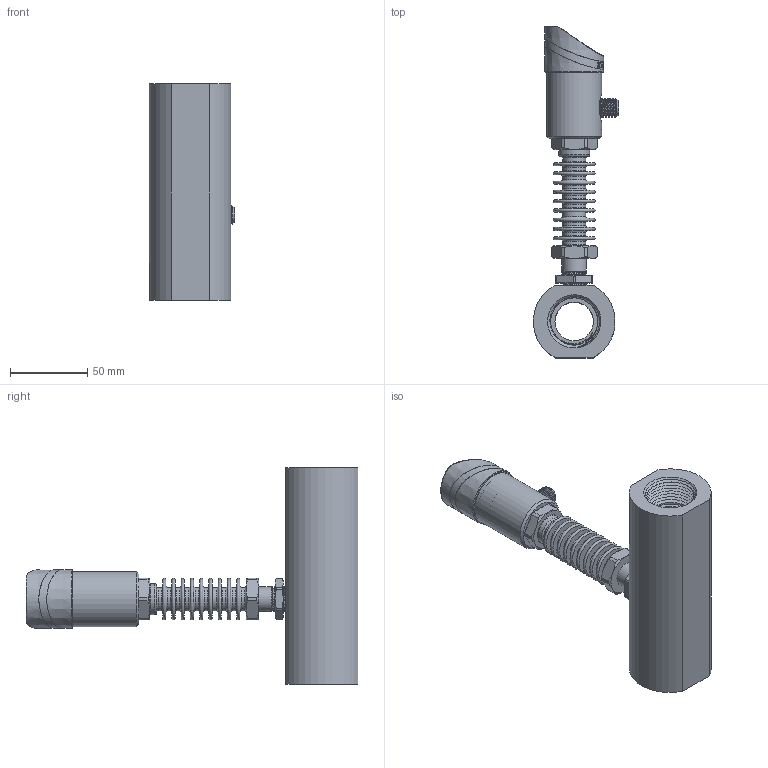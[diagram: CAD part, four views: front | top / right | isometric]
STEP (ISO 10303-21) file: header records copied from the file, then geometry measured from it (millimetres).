
FILE_DESCRIPTION( (''), '2;1');
FILE_NAME( 'QTKE_DN25_female-thread_high-temp.step', '2024-10-15T13:46:09+08:00', (''), (''), '', '', '');
FILE_SCHEMA (('AUTOMOTIVE_DESIGN { 1 0 10303 214 3 1 1 1 }'));
Length unit declared in the file: millimetre
Products named in the file (1): QTKE DN25_female-thread_high-temp
Bounding box: 55.11 x 215 x 140 mm (x, y, z)
Volume: 254110 mm3; surface area: 86472.9 mm2
Topology: 5 solids, 5 shells, 1001 faces, 2554 edges, 1654 vertices
Faces by surface type: plane 404, cylinder 169, extrusion 160, cone 110, bspline 77, torus 60, sphere 21
Full cylindrical faces by diameter (mm): 1.689 x1, 2 x1, 2.7 x6, 3.5 x5, 12 x1, 13 x1, 15 x11, 15.9 x1, 20 x1, 23 x3, 25 x1, 26 x5, 30.5 x2, 31.7 x1, 32 x1, 34 x1, 34.2 x1, 35.5 x2
Entity records: 45449 total; most frequent: CARTESIAN_POINT 18630, ORIENTED_EDGE 4726, DIRECTION 4044, EDGE_CURVE 2363, VERTEX_POINT 1597, AXIS2_PLACEMENT_3D 1436, EDGE_LOOP 1232, VECTOR 1172
